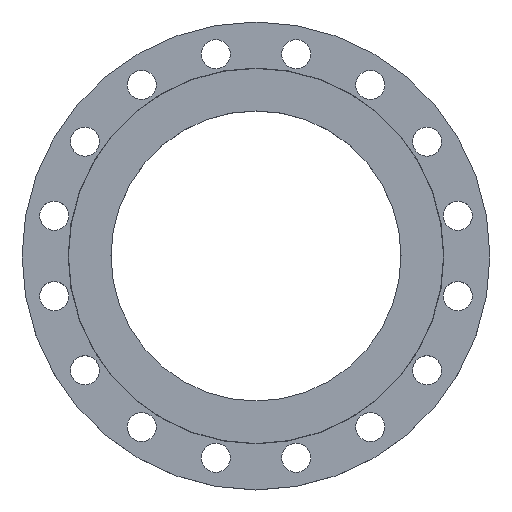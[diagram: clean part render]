
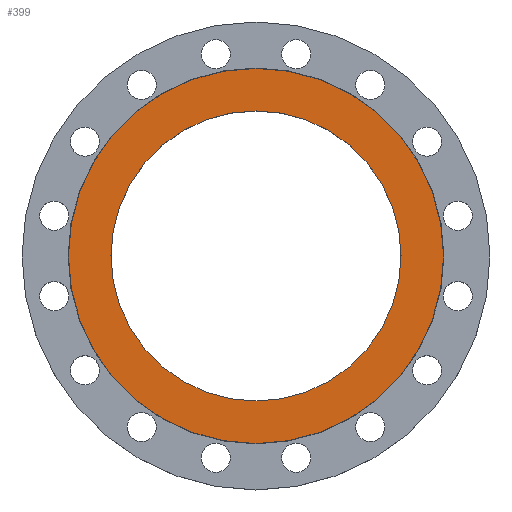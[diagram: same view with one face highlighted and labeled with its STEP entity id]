
A CAD part, top view. The second image highlights one B-rep face of the part: STEP entity #399.
In plain terms, the highlighted planar face has unit normal (0, 0, 1).
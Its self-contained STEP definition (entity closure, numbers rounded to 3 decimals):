
#106 = VERTEX_POINT ( 'NONE', #1418 ) ;
#203 = AXIS2_PLACEMENT_3D ( 'NONE', #1022, #1021, #1019 ) ;
#204 = CIRCLE ( 'NONE', #203, 232.5 ) ;
#296 = CIRCLE ( 'NONE', #325, 232.5 ) ;
#316 = CARTESIAN_POINT ( 'NONE',  ( -179.75, 0., 0. ) ) ;
#325 = AXIS2_PLACEMENT_3D ( 'NONE', #984, #983, #982 ) ;
#342 = AXIS2_PLACEMENT_3D ( 'NONE', #1309, #1308, #1307 ) ;
#399 = ADVANCED_FACE ( 'NONE', ( #1314, #1313 ), #1311, .T. ) ;
#490 = ORIENTED_EDGE ( 'NONE', *, *, #1279, .F. ) ;
#491 = ORIENTED_EDGE ( 'NONE', *, *, #1166, .F. ) ;
#494 = ORIENTED_EDGE ( 'NONE', *, *, #852, .F. ) ;
#499 = ORIENTED_EDGE ( 'NONE', *, *, #762, .F. ) ;
#570 = VERTEX_POINT ( 'NONE', #1153 ) ;
#572 = VERTEX_POINT ( 'NONE', #1152 ) ;
#665 = DIRECTION ( 'NONE',  ( 1., 0., 0. ) ) ;
#666 = DIRECTION ( 'NONE',  ( 0., 0., 1. ) ) ;
#667 = CARTESIAN_POINT ( 'NONE',  ( 0., 0., 0. ) ) ;
#762 = EDGE_CURVE ( 'NONE', #572, #106, #204, .T. ) ;
#782 = DIRECTION ( 'NONE',  ( 1., 0., 0. ) ) ;
#784 = DIRECTION ( 'NONE',  ( 0., 0., 1. ) ) ;
#785 = CARTESIAN_POINT ( 'NONE',  ( 0., 0., 0. ) ) ;
#819 = CIRCLE ( 'NONE', #842, 179.75 ) ;
#842 = AXIS2_PLACEMENT_3D ( 'NONE', #667, #666, #665 ) ;
#852 = EDGE_CURVE ( 'NONE', #106, #572, #296, .T. ) ;
#982 = DIRECTION ( 'NONE',  ( -1., 0., 0. ) ) ;
#983 = DIRECTION ( 'NONE',  ( 0., 0., -1. ) ) ;
#984 = CARTESIAN_POINT ( 'NONE',  ( 0., 0., 0. ) ) ;
#1019 = DIRECTION ( 'NONE',  ( -1., 0., 0. ) ) ;
#1021 = DIRECTION ( 'NONE',  ( 0., 0., -1. ) ) ;
#1022 = CARTESIAN_POINT ( 'NONE',  ( 0., 0., 0. ) ) ;
#1066 = AXIS2_PLACEMENT_3D ( 'NONE', #785, #784, #782 ) ;
#1076 = CIRCLE ( 'NONE', #1066, 179.75 ) ;
#1152 = CARTESIAN_POINT ( 'NONE',  ( 232.5, 0., 0. ) ) ;
#1153 = CARTESIAN_POINT ( 'NONE',  ( 179.75, 0., 0. ) ) ;
#1166 = EDGE_CURVE ( 'NONE', #1514, #570, #1076, .T. ) ;
#1189 = EDGE_LOOP ( 'NONE', ( #490, #491 ) ) ;
#1279 = EDGE_CURVE ( 'NONE', #570, #1514, #819, .T. ) ;
#1307 = DIRECTION ( 'NONE',  ( 1., 0., 0. ) ) ;
#1308 = DIRECTION ( 'NONE',  ( 0., 0., 1. ) ) ;
#1309 = CARTESIAN_POINT ( 'NONE',  ( 0., 0., 0. ) ) ;
#1311 = PLANE ( 'NONE',  #342 ) ;
#1313 = FACE_OUTER_BOUND ( 'NONE', #1589, .T. ) ;
#1314 = FACE_BOUND ( 'NONE', #1189, .T. ) ;
#1418 = CARTESIAN_POINT ( 'NONE',  ( -232.5, 0., 0. ) ) ;
#1514 = VERTEX_POINT ( 'NONE', #316 ) ;
#1589 = EDGE_LOOP ( 'NONE', ( #494, #499 ) ) ;
